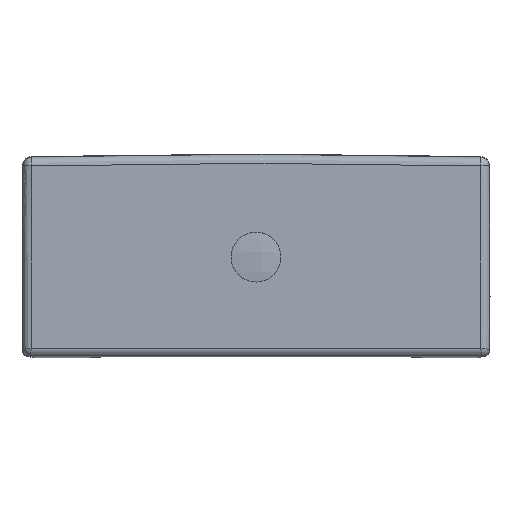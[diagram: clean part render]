
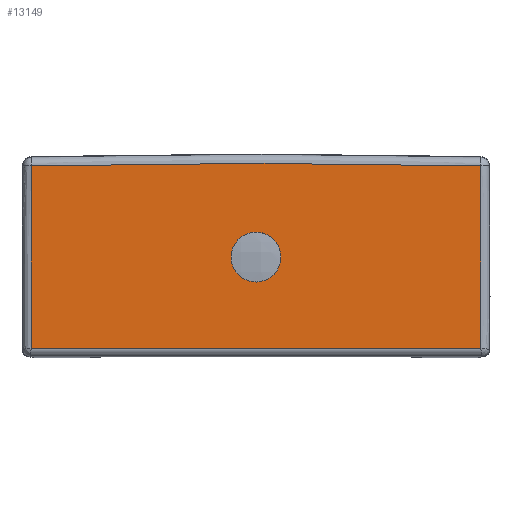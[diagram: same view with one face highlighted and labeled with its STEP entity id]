
A CAD part, top view. The second image highlights one B-rep face of the part: STEP entity #13149.
In plain terms, the highlighted planar face has unit normal (0, 0, 1).
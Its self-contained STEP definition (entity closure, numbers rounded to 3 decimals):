
#10896=CARTESIAN_POINT('Vertex',(-180.282,7.,395.)) ;
#10920=CARTESIAN_POINT('Vertex',(180.282,7.,395.)) ;
#10923=CARTESIAN_POINT('Line Origine',(0.,7.,395.)) ;
#13060=CARTESIAN_POINT('Axis2P3D Location',(0.,0.,395.)) ;
#13066=CARTESIAN_POINT('Control Point',(180.037,153.175,395.)) ;
#13067=CARTESIAN_POINT('Control Point',(180.73,104.455,395.)) ;
#13068=CARTESIAN_POINT('Control Point',(180.812,55.722,395.)) ;
#13069=CARTESIAN_POINT('Control Point',(180.282,7.,395.)) ;
#13070=CARTESIAN_POINT('Vertex',(180.037,153.175,395.)) ;
#13074=CARTESIAN_POINT('Control Point',(-180.037,153.175,395.)) ;
#13075=CARTESIAN_POINT('Control Point',(-60.033,155.878,395.)) ;
#13076=CARTESIAN_POINT('Control Point',(60.033,155.878,395.)) ;
#13077=CARTESIAN_POINT('Control Point',(180.037,153.175,395.)) ;
#13078=CARTESIAN_POINT('Vertex',(-180.037,153.175,395.)) ;
#13082=CARTESIAN_POINT('Control Point',(-180.282,7.,395.)) ;
#13083=CARTESIAN_POINT('Control Point',(-180.292,7.886,395.)) ;
#13084=CARTESIAN_POINT('Control Point',(-180.301,8.775,395.)) ;
#13085=CARTESIAN_POINT('Control Point',(-180.311,9.666,395.)) ;
#13086=CARTESIAN_POINT('Control Point',(-180.348,13.321,395.)) ;
#13087=CARTESIAN_POINT('Control Point',(-180.383,16.975,395.)) ;
#13088=CARTESIAN_POINT('Control Point',(-180.408,19.736,395.)) ;
#13089=CARTESIAN_POINT('Control Point',(-180.461,26.152,395.)) ;
#13090=CARTESIAN_POINT('Control Point',(-180.506,32.568,395.)) ;
#13091=CARTESIAN_POINT('Control Point',(-180.528,36.222,395.)) ;
#13092=CARTESIAN_POINT('Control Point',(-180.587,47.187,395.)) ;
#13093=CARTESIAN_POINT('Control Point',(-180.621,58.151,395.)) ;
#13094=CARTESIAN_POINT('Control Point',(-180.631,65.461,395.)) ;
#13095=CARTESIAN_POINT('Control Point',(-180.629,87.39,395.)) ;
#13096=CARTESIAN_POINT('Control Point',(-180.524,109.32,395.)) ;
#13097=CARTESIAN_POINT('Control Point',(-180.407,123.939,395.)) ;
#13098=CARTESIAN_POINT('Control Point',(-180.245,138.557,395.)) ;
#13099=CARTESIAN_POINT('Control Point',(-180.037,153.175,395.)) ;
#13108=CARTESIAN_POINT('Control Point',(-20.,80.,395.)) ;
#13109=CARTESIAN_POINT('Control Point',(-20.,76.858,395.)) ;
#13110=CARTESIAN_POINT('Control Point',(-19.383,73.717,395.)) ;
#13111=CARTESIAN_POINT('Control Point',(-18.149,70.737,395.)) ;
#13112=CARTESIAN_POINT('Control Point',(-14.578,65.422,395.)) ;
#13113=CARTESIAN_POINT('Control Point',(-9.263,61.851,395.)) ;
#13114=CARTESIAN_POINT('Control Point',(-6.283,60.617,395.)) ;
#13115=CARTESIAN_POINT('Control Point',(0.,59.383,395.)) ;
#13116=CARTESIAN_POINT('Control Point',(6.283,60.617,395.)) ;
#13117=CARTESIAN_POINT('Control Point',(9.263,61.851,395.)) ;
#13118=CARTESIAN_POINT('Control Point',(14.578,65.422,395.)) ;
#13119=CARTESIAN_POINT('Control Point',(18.149,70.737,395.)) ;
#13120=CARTESIAN_POINT('Control Point',(19.383,73.717,395.)) ;
#13121=CARTESIAN_POINT('Control Point',(20.,76.858,395.)) ;
#13122=CARTESIAN_POINT('Control Point',(20.,80.,395.)) ;
#13123=CARTESIAN_POINT('Vertex',(-20.,80.,395.)) ;
#13125=CARTESIAN_POINT('Vertex',(20.,80.,395.)) ;
#13129=CARTESIAN_POINT('Control Point',(20.,80.,395.)) ;
#13130=CARTESIAN_POINT('Control Point',(20.,83.142,395.)) ;
#13131=CARTESIAN_POINT('Control Point',(19.383,86.283,395.)) ;
#13132=CARTESIAN_POINT('Control Point',(18.149,89.263,395.)) ;
#13133=CARTESIAN_POINT('Control Point',(14.578,94.578,395.)) ;
#13134=CARTESIAN_POINT('Control Point',(9.263,98.149,395.)) ;
#13135=CARTESIAN_POINT('Control Point',(6.283,99.383,395.)) ;
#13136=CARTESIAN_POINT('Control Point',(0.,100.617,395.)) ;
#13137=CARTESIAN_POINT('Control Point',(-6.283,99.383,395.)) ;
#13138=CARTESIAN_POINT('Control Point',(-9.263,98.149,395.)) ;
#13139=CARTESIAN_POINT('Control Point',(-14.578,94.578,395.)) ;
#13140=CARTESIAN_POINT('Control Point',(-18.149,89.263,395.)) ;
#13141=CARTESIAN_POINT('Control Point',(-19.383,86.283,395.)) ;
#13142=CARTESIAN_POINT('Control Point',(-20.,83.142,395.)) ;
#13143=CARTESIAN_POINT('Control Point',(-20.,80.,395.)) ;
#10924=DIRECTION('Vector Direction',(-1.,0.,0.)) ;
#13061=DIRECTION('Axis2P3D Direction',(0.,0.,1.)) ;
#13062=DIRECTION('Axis2P3D XDirection',(1.,0.,0.)) ;
#13063=AXIS2_PLACEMENT_3D('Plane Axis2P3D',#13060,#13061,#13062) ;
#13102=ORIENTED_EDGE('',*,*,#10927,.F.) ;
#13103=ORIENTED_EDGE('',*,*,#13072,.F.) ;
#13104=ORIENTED_EDGE('',*,*,#13080,.F.) ;
#13105=ORIENTED_EDGE('',*,*,#13100,.F.) ;
#13146=ORIENTED_EDGE('',*,*,#13127,.F.) ;
#13147=ORIENTED_EDGE('',*,*,#13144,.F.) ;
#13148=FACE_BOUND('',#13145,.T.) ;
#10925=VECTOR('Line Direction',#10924,1.) ;
#13149=ADVANCED_FACE('Hauptk\X2\00F6\X0\rper',(#13106,#13148),#13064,.T.) ;
#13065=B_SPLINE_CURVE_WITH_KNOTS('',3,(#13066,#13067,#13068,#13069),.UNSPECIFIED.,.F.,.U.,(4,4),(58.478,265.325),.UNSPECIFIED.) ;
#13073=B_SPLINE_CURVE_WITH_KNOTS('',3,(#13074,#13075,#13076,#13077),.UNSPECIFIED.,.F.,.U.,(4,4),(116.875,626.366),.UNSPECIFIED.) ;
#13081=B_SPLINE_CURVE_WITH_KNOTS('',5,(#13082,#13083,#13084,#13085,#13086,#13087,#13088,#13089,#13090,#13091,#13092,#13093,#13094,#13095,#13096,#13097,#13098,#13099),.UNSPECIFIED.,.F.,.U.,(6,3,3,3,3,6),(56.159,62.482,82.017,107.876,159.592,263.026),.UNSPECIFIED.) ;
#13107=B_SPLINE_CURVE_WITH_KNOTS('',5,(#13108,#13109,#13110,#13111,#13112,#13113,#13114,#13115,#13116,#13117,#13118,#13119,#13120,#13121,#13122),.UNSPECIFIED.,.F.,.U.,(6,3,3,3,6),(62.832,78.54,94.248,109.956,125.664),.UNSPECIFIED.) ;
#13128=B_SPLINE_CURVE_WITH_KNOTS('',5,(#13129,#13130,#13131,#13132,#13133,#13134,#13135,#13136,#13137,#13138,#13139,#13140,#13141,#13142,#13143),.UNSPECIFIED.,.F.,.U.,(6,3,3,3,6),(0.,15.708,31.416,47.124,62.832),.UNSPECIFIED.) ;
#10927=EDGE_CURVE('',#10921,#10897,#10926,.T.) ;
#13072=EDGE_CURVE('',#13071,#10921,#13065,.T.) ;
#13080=EDGE_CURVE('',#13079,#13071,#13073,.T.) ;
#13100=EDGE_CURVE('',#10897,#13079,#13081,.T.) ;
#13127=EDGE_CURVE('',#13124,#13126,#13107,.T.) ;
#13144=EDGE_CURVE('',#13126,#13124,#13128,.T.) ;
#13101=EDGE_LOOP('',(#13102,#13103,#13104,#13105)) ;
#13145=EDGE_LOOP('',(#13146,#13147)) ;
#13106=FACE_OUTER_BOUND('',#13101,.T.) ;
#10926=LINE('Line',#10923,#10925) ;
#13064=PLANE('Plane',#13063) ;
#10897=VERTEX_POINT('',#10896) ;
#10921=VERTEX_POINT('',#10920) ;
#13071=VERTEX_POINT('',#13070) ;
#13079=VERTEX_POINT('',#13078) ;
#13124=VERTEX_POINT('',#13123) ;
#13126=VERTEX_POINT('',#13125) ;
